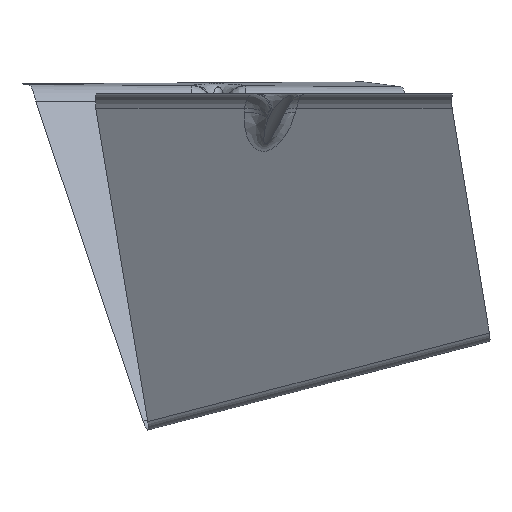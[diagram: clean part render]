
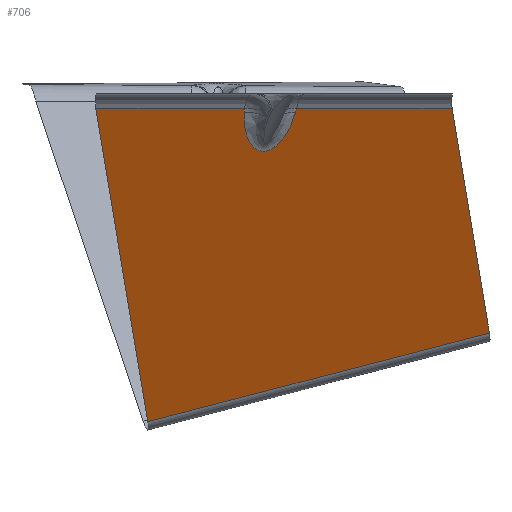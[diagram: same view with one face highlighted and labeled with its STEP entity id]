
A CAD part, left-side view. The second image highlights one B-rep face of the part: STEP entity #706.
In plain terms, the highlighted planar face has unit normal (-0.83, -0.249, -0.5).
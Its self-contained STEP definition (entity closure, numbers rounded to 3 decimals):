
#251=CARTESIAN_POINT('Vertex',(-99.209,8.471,-0.7)) ;
#274=CARTESIAN_POINT('Line Origine',(-78.464,10.907,-36.329)) ;
#278=CARTESIAN_POINT('Vertex',(-98.556,8.547,-1.822)) ;
#591=CARTESIAN_POINT('Control Point',(-94.255,-5.79,-1.822)) ;
#592=CARTESIAN_POINT('Control Point',(-94.029,-5.677,-2.253)) ;
#593=CARTESIAN_POINT('Control Point',(-93.806,-5.553,-2.684)) ;
#594=CARTESIAN_POINT('Control Point',(-93.586,-5.419,-3.115)) ;
#595=CARTESIAN_POINT('Control Point',(-92.965,-5.001,-4.353)) ;
#596=CARTESIAN_POINT('Control Point',(-92.378,-4.492,-5.582)) ;
#597=CARTESIAN_POINT('Control Point',(-92.012,-4.117,-6.376)) ;
#598=CARTESIAN_POINT('Control Point',(-91.515,-3.514,-7.499)) ;
#599=CARTESIAN_POINT('Control Point',(-91.073,-2.789,-8.593)) ;
#600=CARTESIAN_POINT('Control Point',(-90.947,-2.561,-8.917)) ;
#601=CARTESIAN_POINT('Control Point',(-90.725,-2.115,-9.507)) ;
#602=CARTESIAN_POINT('Control Point',(-90.528,-1.619,-10.08)) ;
#603=CARTESIAN_POINT('Control Point',(-90.444,-1.38,-10.338)) ;
#604=CARTESIAN_POINT('Control Point',(-90.257,-0.761,-10.957)) ;
#605=CARTESIAN_POINT('Control Point',(-90.123,-0.051,-11.532)) ;
#606=CARTESIAN_POINT('Control Point',(-90.069,0.41,-11.852)) ;
#607=CARTESIAN_POINT('Control Point',(-90.041,1.132,-12.257)) ;
#608=CARTESIAN_POINT('Control Point',(-90.123,1.946,-12.527)) ;
#609=CARTESIAN_POINT('Control Point',(-90.157,2.196,-12.594)) ;
#610=CARTESIAN_POINT('Control Point',(-90.249,2.691,-12.688)) ;
#611=CARTESIAN_POINT('Control Point',(-90.386,3.191,-12.71)) ;
#612=CARTESIAN_POINT('Control Point',(-90.462,3.431,-12.703)) ;
#613=CARTESIAN_POINT('Control Point',(-90.695,4.066,-12.633)) ;
#614=CARTESIAN_POINT('Control Point',(-90.98,4.639,-12.445)) ;
#615=CARTESIAN_POINT('Control Point',(-91.173,4.968,-12.289)) ;
#616=CARTESIAN_POINT('Control Point',(-91.512,5.478,-11.979)) ;
#617=CARTESIAN_POINT('Control Point',(-91.861,5.908,-11.616)) ;
#618=CARTESIAN_POINT('Control Point',(-92.008,6.077,-11.455)) ;
#619=CARTESIAN_POINT('Control Point',(-92.341,6.431,-11.079)) ;
#620=CARTESIAN_POINT('Control Point',(-92.672,6.734,-10.68)) ;
#621=CARTESIAN_POINT('Control Point',(-92.856,6.888,-10.452)) ;
#622=CARTESIAN_POINT('Control Point',(-93.269,7.209,-9.927)) ;
#623=CARTESIAN_POINT('Control Point',(-93.676,7.474,-9.383)) ;
#624=CARTESIAN_POINT('Control Point',(-93.901,7.607,-9.076)) ;
#625=CARTESIAN_POINT('Control Point',(-94.401,7.875,-8.38)) ;
#626=CARTESIAN_POINT('Control Point',(-94.892,8.083,-7.668)) ;
#627=CARTESIAN_POINT('Control Point',(-95.162,8.182,-7.27)) ;
#628=CARTESIAN_POINT('Control Point',(-96.035,8.459,-5.961)) ;
#629=CARTESIAN_POINT('Control Point',(-96.878,8.591,-4.627)) ;
#630=CARTESIAN_POINT('Control Point',(-97.45,8.627,-3.696)) ;
#631=CARTESIAN_POINT('Control Point',(-98.009,8.612,-2.761)) ;
#632=CARTESIAN_POINT('Control Point',(-98.556,8.547,-1.822)) ;
#633=CARTESIAN_POINT('Vertex',(-94.255,-5.79,-1.822)) ;
#651=CARTESIAN_POINT('Axis2P3D Location',(-43.935,-13.181,-81.623)) ;
#656=CARTESIAN_POINT('Line Origine',(-94.548,-5.938,-1.261)) ;
#660=CARTESIAN_POINT('Vertex',(-94.842,-6.086,-0.7)) ;
#663=CARTESIAN_POINT('Line Origine',(-105.475,29.358,-0.7)) ;
#667=CARTESIAN_POINT('Vertex',(-111.741,50.245,-0.7)) ;
#670=CARTESIAN_POINT('Line Origine',(-83.064,42.954,-44.647)) ;
#674=CARTESIAN_POINT('Vertex',(-54.387,35.663,-88.594)) ;
#677=CARTESIAN_POINT('Line Origine',(-47.506,-12.273,-76.151)) ;
#681=CARTESIAN_POINT('Vertex',(-40.625,-60.209,-63.709)) ;
#684=CARTESIAN_POINT('Line Origine',(-61.183,-54.982,-32.204)) ;
#688=CARTESIAN_POINT('Vertex',(-81.741,-49.755,-0.7)) ;
#691=CARTESIAN_POINT('Line Origine',(-88.292,-27.921,-0.7)) ;
#275=DIRECTION('Vector Direction',(0.502,0.059,-0.863)) ;
#652=DIRECTION('Axis2P3D Direction',(0.83,0.249,0.5)) ;
#653=DIRECTION('Axis2P3D XDirection',(0.541,-0.138,-0.83)) ;
#657=DIRECTION('Vector Direction',(-0.452,-0.227,0.863)) ;
#664=DIRECTION('Vector Direction',(0.287,-0.958,0.)) ;
#671=DIRECTION('Vector Direction',(0.541,-0.138,-0.83)) ;
#678=DIRECTION('Vector Direction',(0.138,-0.959,0.249)) ;
#685=DIRECTION('Vector Direction',(-0.541,0.138,0.83)) ;
#692=DIRECTION('Vector Direction',(0.287,-0.958,0.)) ;
#654=AXIS2_PLACEMENT_3D('Plane Axis2P3D',#651,#652,#653) ;
#697=ORIENTED_EDGE('',*,*,#662,.T.) ;
#698=ORIENTED_EDGE('',*,*,#635,.T.) ;
#699=ORIENTED_EDGE('',*,*,#280,.T.) ;
#700=ORIENTED_EDGE('',*,*,#669,.F.) ;
#701=ORIENTED_EDGE('',*,*,#676,.T.) ;
#702=ORIENTED_EDGE('',*,*,#683,.T.) ;
#703=ORIENTED_EDGE('',*,*,#690,.T.) ;
#704=ORIENTED_EDGE('',*,*,#695,.F.) ;
#276=VECTOR('Line Direction',#275,1.) ;
#658=VECTOR('Line Direction',#657,1.) ;
#665=VECTOR('Line Direction',#664,1.) ;
#672=VECTOR('Line Direction',#671,1.) ;
#679=VECTOR('Line Direction',#678,1.) ;
#686=VECTOR('Line Direction',#685,1.) ;
#693=VECTOR('Line Direction',#692,1.) ;
#706=ADVANCED_FACE('Extract.1',(#705),#655,.F.) ;
#590=B_SPLINE_CURVE_WITH_KNOTS('',5,(#591,#592,#593,#594,#595,#596,#597,#598,#599,#600,#601,#602,#603,#604,#605,#606,#607,#608,#609,#610,#611,#612,#613,#614,#615,#616,#617,#618,#619,#620,#621,#622,#623,#624,#625,#626,#627,#628,#629,#630,#631,#632),.UNSPECIFIED.,.F.,.U.,(6,3,3,3,3,3,3,3,3,3,3,3,3,6),(26.656,29.982,36.224,38.876,41.123,44.38,45.753,47.051,49.267,50.889,52.92,55.478,58.652,65.877),.UNSPECIFIED.) ;
#280=EDGE_CURVE('',#279,#252,#277,.F.) ;
#635=EDGE_CURVE('',#634,#279,#590,.T.) ;
#662=EDGE_CURVE('',#661,#634,#659,.F.) ;
#669=EDGE_CURVE('',#668,#252,#666,.T.) ;
#676=EDGE_CURVE('',#668,#675,#673,.T.) ;
#683=EDGE_CURVE('',#675,#682,#680,.T.) ;
#690=EDGE_CURVE('',#682,#689,#687,.T.) ;
#695=EDGE_CURVE('',#661,#689,#694,.T.) ;
#696=EDGE_LOOP('',(#697,#698,#699,#700,#701,#702,#703,#704)) ;
#705=FACE_OUTER_BOUND('',#696,.T.) ;
#277=LINE('Line',#274,#276) ;
#659=LINE('Line',#656,#658) ;
#666=LINE('Line',#663,#665) ;
#673=LINE('Line',#670,#672) ;
#680=LINE('Line',#677,#679) ;
#687=LINE('Line',#684,#686) ;
#694=LINE('Line',#691,#693) ;
#655=PLANE('',#654) ;
#252=VERTEX_POINT('',#251) ;
#279=VERTEX_POINT('',#278) ;
#634=VERTEX_POINT('',#633) ;
#661=VERTEX_POINT('',#660) ;
#668=VERTEX_POINT('',#667) ;
#675=VERTEX_POINT('',#674) ;
#682=VERTEX_POINT('',#681) ;
#689=VERTEX_POINT('',#688) ;
